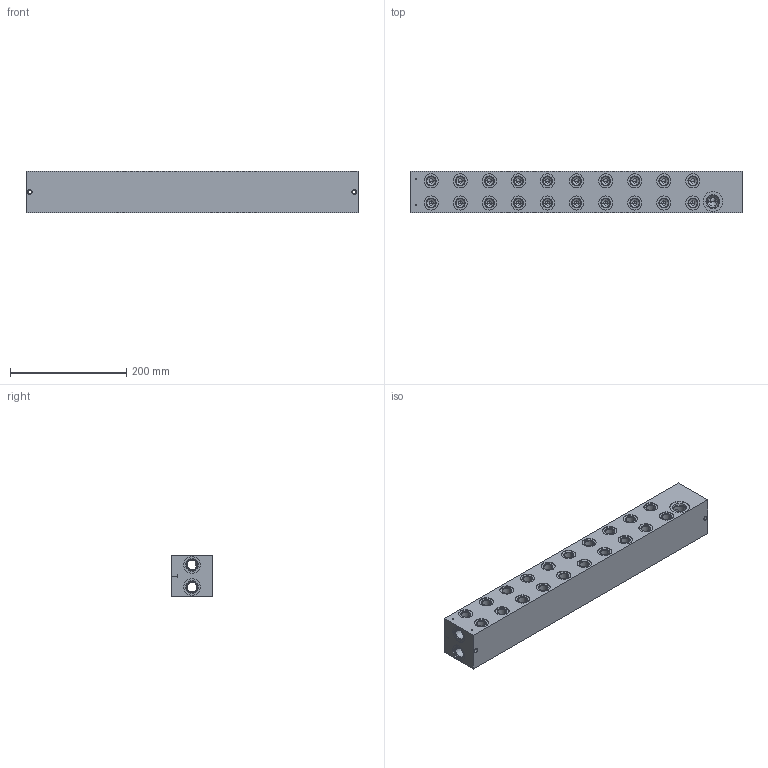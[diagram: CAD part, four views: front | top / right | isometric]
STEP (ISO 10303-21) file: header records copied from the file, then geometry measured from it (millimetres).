
FILE_DESCRIPTION((''),'2;1');
FILE_NAME('1000060225','2024-02-06T',('l.soukupova'),(''),'PRO/ENGINEER BY PARAMETRIC TECHNOLOGY CORPORATION, 2015440','PRO/ENGINEER BY PARAMETRIC TECHNOLOGY CORPORATION, 2015440','');
FILE_SCHEMA(('AUTOMOTIVE_DESIGN { 1 0 10303 214 1 1 1 1 }'));
Length unit declared in the file: millimetre
Products named in the file (1): 1000060225
Bounding box: 571 x 71 x 71 mm (x, y, z)
Volume: 2441808 mm3; surface area: 328020.9 mm2
Topology: 1 solids, 73 shells, 834 faces, 2865 edges, 2448 vertices
Faces by surface type: cylinder 482, cone 246, plane 106
Entity records: 47259 total; most frequent: CARTESIAN_POINT 14029, DIRECTION 5288, ORIENTED_EDGE 3702, PRESENTATION_STYLE_ASSIGNMENT 2962, STYLED_ITEM 2956, CURVE_STYLE 2883, EDGE_CURVE 1995, AXIS2_PLACEMENT_3D 1907
